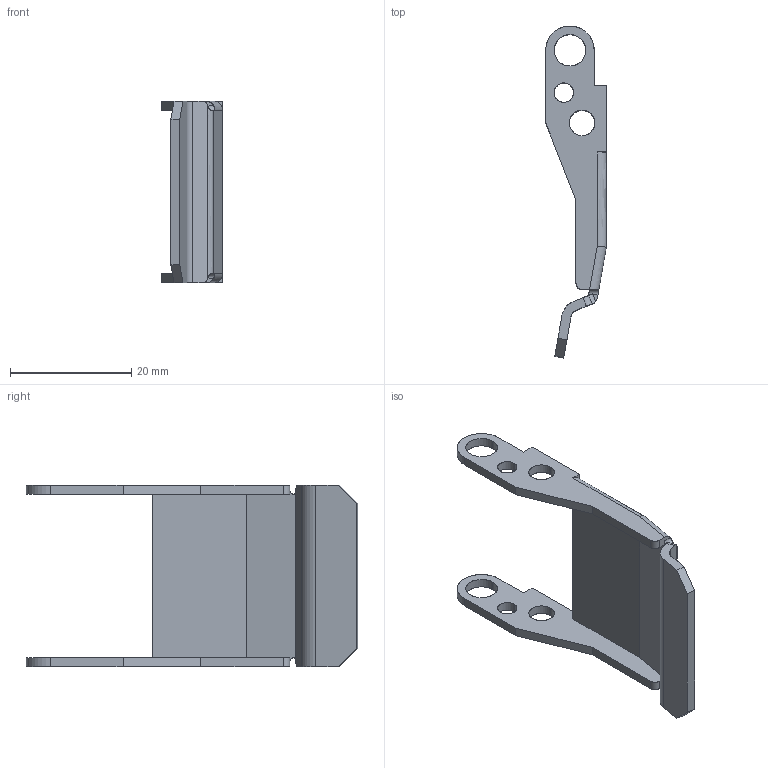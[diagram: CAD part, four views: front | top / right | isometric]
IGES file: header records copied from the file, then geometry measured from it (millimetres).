
Start section: SolidWorks IGES FILE using analytic representation for surfaces
Global section: file name: C:\Documents and Settings\brechard\Bureau\GE 85\85.010.00.IGS; native system: SolidWorks 2001Plus by SolidWorks Corporation; preprocessor: Version 5.3; author: brechard; date: 050126.112948; units: millimetre
Bounding box: 10 x 54.76 x 30 mm (x, y, z)
Surface area: 3493.8 mm2 (no closed solid volume)
Topology: 0 solids, 0 shells, 69 faces, 938 edges, 938 vertices
Faces by surface type: bspline 40, revolution 29
